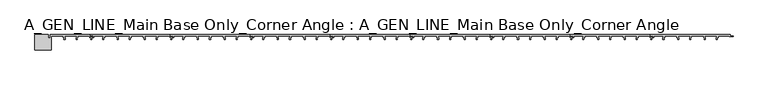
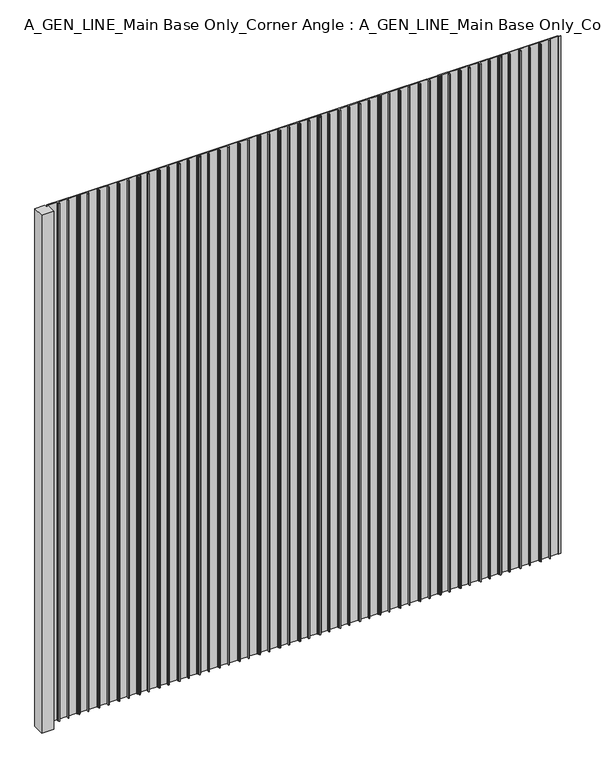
"""IFC4 building model written with IfcOpenShell, lengths in millimetres: proxy geometry, A_GEN_LINE_Main Base Only_Corner Angle : A_GEN_LINE_Main Base Only_Corner Angle."""

from ifc_helpers import new_model, si_unit, origin, origin_with_axes, place, context, project, spatial, polyline, outline, extrude, source, transform, mapped, element, save


def a_gen_line_main_base_only_corner_angle_a_gen_line_main_base_0dd37ec3(model_context):
    return source(origin(), model_context, "Body", "SweptSolid", [
        extrude(outline(polyline([(1237.0964399, 0.0), (1401.6725487, 0.0), (1401.6725487, -2.85), (1407.6725487, -2.85), (1407.6725487, -4.2), (1400.1541936, -4.2), (1400.1541936, -2.4), (1376.6846262, -2.4), (1376.6846262, -6.1021884), (1375.5696527, -6.1021884), (1373.9810869, -8.4994005), (1375.2430208, -8.4994005), (1375.2430208, -10.4818695), (1373.0404948, -10.4818695), (1373.073778, -5.5238337), (1375.1438558, -2.4), (1348.2274208, -2.4), (1350.326542, -5.6343123), (1350.326542, -10.4818695), (1348.1240159, -10.4818695), (1348.1240159, -8.4994005), (1349.3859498, -8.4994005), (1347.797384, -6.1021884), (1346.6824106, -6.1021884), (1346.6824106, -2.4), (1321.6819112, -2.4), (1321.6819112, -6.1021884), (1320.5669377, -6.1021884), (1318.9783719, -8.4994005), (1320.2403058, -8.4994005), (1320.2403058, -10.4818695), (1318.0377798, -10.4818695), (1318.0377798, -5.5740595), (1320.1411408, -2.4), (1293.2269214, -2.4), (1295.3260426, -5.6343123), (1295.3260426, -10.4818695), (1293.1235165, -10.4818695), (1293.1235165, -8.4994005), (1294.3854504, -8.4994005), (1292.7968846, -6.1021884), (1291.6819112, -6.1021884), (1291.6819112, -2.4), (1266.6814118, -2.4), (1266.6814118, -6.1021884), (1265.5664384, -6.1021884), (1263.9778726, -8.4994005), (1265.2398065, -8.4994005), (1265.2398065, -10.4818695), (1263.0372804, -10.4818695), (1263.0372804, -5.6343123), (1265.1364015, -2.4), (1244.3159926, -2.4), (1244.3159926, -6.1), (1240.3255432, -6.1), (1240.3255432, -10.4818695), (1238.1230171, -10.4818695), (1238.1230171, -8.4994005), (1239.384951, -8.4994005), (1237.7963852, -6.1021884), (1236.7101997, -6.1021884), (1236.7101997, -4.9), (1243.1159926, -4.9), (1243.1159926, -2.7), (1237.0964399, -2.7), (1237.0964399, 0.0)])), origin_with_axes(), (0.0, 0.0, 1.0), 1500.0),
        extrude(outline(polyline([(-4.3962835, 0.0), (-4.3962835, -7.0005407), (0.0, -7.0005407), (0.0, 0.0), (81.7101997, 0.0), (81.7101997, -2.825696), (87.7101997, -2.825696), (87.7101997, -4.175696), (80.1918447, -4.175696), (80.1918447, -2.4), (56.6880373, -2.4), (56.6880373, -6.1021884), (55.5730639, -6.1021884), (53.9844981, -8.4994005), (55.246432, -8.4994005), (55.246432, -10.4818695), (53.0439059, -10.4818695), (53.0771891, -5.5238337), (55.1472669, -2.4), (28.2330476, -2.4), (30.3031254, -5.5238337), (30.3364086, -10.4818695), (28.1338825, -10.4818695), (28.1338825, -8.4994005), (29.3958164, -8.4994005), (27.8072506, -6.1021884), (26.6922772, -6.1021884), (26.6922772, -2.4), (1.4, -2.4), (1.4, -31.9534606), (-31.8427435, -31.9534606), (-31.8427435, 0.0), (-4.3962835, 0.0)])), origin_with_axes(), (0.0, 0.0, 1.0), 1500.0),
        extrude(outline(polyline([(1072.0964399, 0.0), (1236.6725487, 0.0), (1236.6725487, -2.85), (1242.6725487, -2.85), (1242.6725487, -4.2), (1235.1541936, -4.2), (1235.1541936, -2.4), (1211.6846262, -2.4), (1211.6846262, -6.1021884), (1210.5696527, -6.1021884), (1208.9810869, -8.4994005), (1210.2430208, -8.4994005), (1210.2430208, -10.4818695), (1208.0404948, -10.4818695), (1208.073778, -5.5238337), (1210.1438558, -2.4), (1183.2274208, -2.4), (1185.326542, -5.6343123), (1185.326542, -10.4818695), (1183.1240159, -10.4818695), (1183.1240159, -8.4994005), (1184.3859498, -8.4994005), (1182.797384, -6.1021884), (1181.6824106, -6.1021884), (1181.6824106, -2.4), (1156.6819112, -2.4), (1156.6819112, -6.1021884), (1155.5669377, -6.1021884), (1153.9783719, -8.4994005), (1155.2403058, -8.4994005), (1155.2403058, -10.4818695), (1153.0377798, -10.4818695), (1153.0377798, -5.5740595), (1155.1411408, -2.4), (1128.2269214, -2.4), (1130.3260426, -5.6343123), (1130.3260426, -10.4818695), (1128.1235165, -10.4818695), (1128.1235165, -8.4994005), (1129.3854504, -8.4994005), (1127.7968846, -6.1021884), (1126.6819112, -6.1021884), (1126.6819112, -2.4), (1101.6814118, -2.4), (1101.6814118, -6.1021884), (1100.5664384, -6.1021884), (1098.9778726, -8.4994005), (1100.2398065, -8.4994005), (1100.2398065, -10.4818695), (1098.0372804, -10.4818695), (1098.0372804, -5.6343123), (1100.1364015, -2.4), (1079.3159926, -2.4), (1079.3159926, -6.1), (1075.3255432, -6.1), (1075.3255432, -10.4818695), (1073.1230171, -10.4818695), (1073.1230171, -8.4994005), (1074.384951, -8.4994005), (1072.7963852, -6.1021884), (1071.7101997, -6.1021884), (1071.7101997, -4.9), (1078.1159926, -4.9), (1078.1159926, -2.7), (1072.0964399, -2.7), (1072.0964399, 0.0)])), origin_with_axes(), (0.0, 0.0, 1.0), 1500.0),
        extrude(outline(polyline([(907.0964399, 0.0), (1071.6725487, 0.0), (1071.6725487, -2.85), (1077.6725487, -2.85), (1077.6725487, -4.2), (1070.1541936, -4.2), (1070.1541936, -2.4), (1046.6846262, -2.4), (1046.6846262, -6.1021884), (1045.5696527, -6.1021884), (1043.9810869, -8.4994005), (1045.2430208, -8.4994005), (1045.2430208, -10.4818695), (1043.0404948, -10.4818695), (1043.073778, -5.5238337), (1045.1438558, -2.4), (1018.2274208, -2.4), (1020.326542, -5.6343123), (1020.326542, -10.4818695), (1018.1240159, -10.4818695), (1018.1240159, -8.4994005), (1019.3859498, -8.4994005), (1017.797384, -6.1021884), (1016.6824106, -6.1021884), (1016.6824106, -2.4), (991.6819112, -2.4), (991.6819112, -6.1021884), (990.5669377, -6.1021884), (988.9783719, -8.4994005), (990.2403058, -8.4994005), (990.2403058, -10.4818695), (988.0377798, -10.4818695), (988.0377798, -5.5740595), (990.1411408, -2.4), (963.2269214, -2.4), (965.3260426, -5.6343123), (965.3260426, -10.4818695), (963.1235165, -10.4818695), (963.1235165, -8.4994005), (964.3854504, -8.4994005), (962.7968846, -6.1021884), (961.6819112, -6.1021884), (961.6819112, -2.4), (936.6814118, -2.4), (936.6814118, -6.1021884), (935.5664384, -6.1021884), (933.9778726, -8.4994005), (935.2398065, -8.4994005), (935.2398065, -10.4818695), (933.0372804, -10.4818695), (933.0372804, -5.6343123), (935.1364015, -2.4), (914.3159926, -2.4), (914.3159926, -6.1), (910.3255432, -6.1), (910.3255432, -10.4818695), (908.1230171, -10.4818695), (908.1230171, -8.4994005), (909.384951, -8.4994005), (907.7963852, -6.1021884), (906.7101997, -6.1021884), (906.7101997, -4.9), (913.1159926, -4.9), (913.1159926, -2.7), (907.0964399, -2.7), (907.0964399, 0.0)])), origin_with_axes(), (0.0, 0.0, 1.0), 1500.0),
        extrude(outline(polyline([(742.0964399, 0.0), (906.6725487, 0.0), (906.6725487, -2.85), (912.6725487, -2.85), (912.6725487, -4.2), (905.1541936, -4.2), (905.1541936, -2.4), (881.6846262, -2.4), (881.6846262, -6.1021884), (880.5696527, -6.1021884), (878.9810869, -8.4994005), (880.2430208, -8.4994005), (880.2430208, -10.4818695), (878.0404948, -10.4818695), (878.073778, -5.5238337), (880.1438558, -2.4), (853.2274208, -2.4), (855.326542, -5.6343123), (855.326542, -10.4818695), (853.1240159, -10.4818695), (853.1240159, -8.4994005), (854.3859498, -8.4994005), (852.797384, -6.1021884), (851.6824106, -6.1021884), (851.6824106, -2.4), (826.6819112, -2.4), (826.6819112, -6.1021884), (825.5669377, -6.1021884), (823.9783719, -8.4994005), (825.2403058, -8.4994005), (825.2403058, -10.4818695), (823.0377798, -10.4818695), (823.0377798, -5.5740595), (825.1411408, -2.4), (798.2269214, -2.4), (800.3260426, -5.6343123), (800.3260426, -10.4818695), (798.1235165, -10.4818695), (798.1235165, -8.4994005), (799.3854504, -8.4994005), (797.7968846, -6.1021884), (796.6819112, -6.1021884), (796.6819112, -2.4), (771.6814118, -2.4), (771.6814118, -6.1021884), (770.5664384, -6.1021884), (768.9778726, -8.4994005), (770.2398065, -8.4994005), (770.2398065, -10.4818695), (768.0372804, -10.4818695), (768.0372804, -5.6343123), (770.1364015, -2.4), (749.3159926, -2.4), (749.3159926, -6.1), (745.3255432, -6.1), (745.3255432, -10.4818695), (743.1230171, -10.4818695), (743.1230171, -8.4994005), (744.384951, -8.4994005), (742.7963852, -6.1021884), (741.7101997, -6.1021884), (741.7101997, -4.9), (748.1159926, -4.9), (748.1159926, -2.7), (742.0964399, -2.7), (742.0964399, 0.0)])), origin_with_axes(), (0.0, 0.0, 1.0), 1500.0),
        extrude(outline(polyline([(577.0964399, 0.0), (741.6725487, 0.0), (741.6725487, -2.85), (747.6725487, -2.85), (747.6725487, -4.2), (740.1541936, -4.2), (740.1541936, -2.4), (716.6846262, -2.4), (716.6846262, -6.1021884), (715.5696527, -6.1021884), (713.9810869, -8.4994005), (715.2430208, -8.4994005), (715.2430208, -10.4818695), (713.0404948, -10.4818695), (713.073778, -5.5238337), (715.1438558, -2.4), (688.2274208, -2.4), (690.326542, -5.6343123), (690.326542, -10.4818695), (688.1240159, -10.4818695), (688.1240159, -8.4994005), (689.3859498, -8.4994005), (687.797384, -6.1021884), (686.6824106, -6.1021884), (686.6824106, -2.4), (661.6819112, -2.4), (661.6819112, -6.1021884), (660.5669377, -6.1021884), (658.9783719, -8.4994005), (660.2403058, -8.4994005), (660.2403058, -10.4818695), (658.0377798, -10.4818695), (658.0377798, -5.5740595), (660.1411408, -2.4), (633.2269214, -2.4), (635.3260426, -5.6343123), (635.3260426, -10.4818695), (633.1235165, -10.4818695), (633.1235165, -8.4994005), (634.3854504, -8.4994005), (632.7968846, -6.1021884), (631.6819112, -6.1021884), (631.6819112, -2.4), (606.6814118, -2.4), (606.6814118, -6.1021884), (605.5664384, -6.1021884), (603.9778726, -8.4994005), (605.2398065, -8.4994005), (605.2398065, -10.4818695), (603.0372804, -10.4818695), (603.0372804, -5.6343123), (605.1364015, -2.4), (584.3159926, -2.4), (584.3159926, -6.1), (580.3255432, -6.1), (580.3255432, -10.4818695), (578.1230171, -10.4818695), (578.1230171, -8.4994005), (579.384951, -8.4994005), (577.7963852, -6.1021884), (576.7101997, -6.1021884), (576.7101997, -4.9), (583.1159926, -4.9), (583.1159926, -2.7), (577.0964399, -2.7), (577.0964399, 0.0)])), origin_with_axes(), (0.0, 0.0, 1.0), 1500.0),
        extrude(outline(polyline([(412.0964399, 0.0), (576.6725487, 0.0), (576.6725487, -2.85), (582.6725487, -2.85), (582.6725487, -4.2), (575.1541936, -4.2), (575.1541936, -2.4), (551.6846262, -2.4), (551.6846262, -6.1021884), (550.5696527, -6.1021884), (548.9810869, -8.4994005), (550.2430208, -8.4994005), (550.2430208, -10.4818695), (548.0404948, -10.4818695), (548.073778, -5.5238337), (550.1438558, -2.4), (523.2274208, -2.4), (525.326542, -5.6343123), (525.326542, -10.4818695), (523.1240159, -10.4818695), (523.1240159, -8.4994005), (524.3859498, -8.4994005), (522.797384, -6.1021884), (521.6824106, -6.1021884), (521.6824106, -2.4), (496.6819112, -2.4), (496.6819112, -6.1021884), (495.5669377, -6.1021884), (493.9783719, -8.4994005), (495.2403058, -8.4994005), (495.2403058, -10.4818695), (493.0377798, -10.4818695), (493.0377798, -5.5740595), (495.1411408, -2.4), (468.2269214, -2.4), (470.3260426, -5.6343123), (470.3260426, -10.4818695), (468.1235165, -10.4818695), (468.1235165, -8.4994005), (469.3854504, -8.4994005), (467.7968846, -6.1021884), (466.6819112, -6.1021884), (466.6819112, -2.4), (441.6814118, -2.4), (441.6814118, -6.1021884), (440.5664384, -6.1021884), (438.9778726, -8.4994005), (440.2398065, -8.4994005), (440.2398065, -10.4818695), (438.0372804, -10.4818695), (438.0372804, -5.6343123), (440.1364015, -2.4), (419.3159926, -2.4), (419.3159926, -6.1), (415.3255432, -6.1), (415.3255432, -10.4818695), (413.1230171, -10.4818695), (413.1230171, -8.4994005), (414.384951, -8.4994005), (412.7963852, -6.1021884), (411.7101997, -6.1021884), (411.7101997, -4.9), (418.1159926, -4.9), (418.1159926, -2.7), (412.0964399, -2.7), (412.0964399, 0.0)])), origin_with_axes(), (0.0, 0.0, 1.0), 1500.0),
        extrude(outline(polyline([(247.0964399, 0.0), (411.6725487, 0.0), (411.6725487, -2.85), (417.6725487, -2.85), (417.6725487, -4.2), (410.1541936, -4.2), (410.1541936, -2.4), (386.6846262, -2.4), (386.6846262, -6.1021884), (385.5696527, -6.1021884), (383.9810869, -8.4994005), (385.2430208, -8.4994005), (385.2430208, -10.4818695), (383.0404948, -10.4818695), (383.073778, -5.5238337), (385.1438558, -2.4), (358.2274208, -2.4), (360.326542, -5.6343123), (360.326542, -10.4818695), (358.1240159, -10.4818695), (358.1240159, -8.4994005), (359.3859498, -8.4994005), (357.797384, -6.1021884), (356.6824106, -6.1021884), (356.6824106, -2.4), (331.6819112, -2.4), (331.6819112, -6.1021884), (330.5669377, -6.1021884), (328.9783719, -8.4994005), (330.2403058, -8.4994005), (330.2403058, -10.4818695), (328.0377798, -10.4818695), (328.0377798, -5.5740595), (330.1411408, -2.4), (303.2269214, -2.4), (305.3260426, -5.6343123), (305.3260426, -10.4818695), (303.1235165, -10.4818695), (303.1235165, -8.4994005), (304.3854504, -8.4994005), (302.7968846, -6.1021884), (301.6819112, -6.1021884), (301.6819112, -2.4), (276.6814118, -2.4), (276.6814118, -6.1021884), (275.5664384, -6.1021884), (273.9778726, -8.4994005), (275.2398065, -8.4994005), (275.2398065, -10.4818695), (273.0372804, -10.4818695), (273.0372804, -5.6343123), (275.1364015, -2.4), (254.3159926, -2.4), (254.3159926, -6.1), (250.3255432, -6.1), (250.3255432, -10.4818695), (248.1230171, -10.4818695), (248.1230171, -8.4994005), (249.384951, -8.4994005), (247.7963852, -6.1021884), (246.7101997, -6.1021884), (246.7101997, -4.9), (253.1159926, -4.9), (253.1159926, -2.7), (247.0964399, -2.7), (247.0964399, 0.0)])), origin_with_axes(), (0.0, 0.0, 1.0), 1500.0),
        extrude(outline(polyline([(82.0964399, 0.0), (246.6725487, 0.0), (246.6725487, -2.85), (252.6725487, -2.85), (252.6725487, -4.2), (245.1541936, -4.2), (245.1541936, -2.4), (221.6846262, -2.4), (221.6846262, -6.1021884), (220.5696527, -6.1021884), (218.9810869, -8.4994005), (220.2430208, -8.4994005), (220.2430208, -10.4818695), (218.0404948, -10.4818695), (218.073778, -5.5238337), (220.1438558, -2.4), (193.2274208, -2.4), (195.326542, -5.6343123), (195.326542, -10.4818695), (193.1240159, -10.4818695), (193.1240159, -8.4994005), (194.3859498, -8.4994005), (192.797384, -6.1021884), (191.6824106, -6.1021884), (191.6824106, -2.4), (166.6819112, -2.4), (166.6819112, -6.1021884), (165.5669377, -6.1021884), (163.9783719, -8.4994005), (165.2403058, -8.4994005), (165.2403058, -10.4818695), (163.0377798, -10.4818695), (163.0377798, -5.5740595), (165.1411408, -2.4), (138.2269214, -2.4), (140.3260426, -5.6343123), (140.3260426, -10.4818695), (138.1235165, -10.4818695), (138.1235165, -8.4994005), (139.3854504, -8.4994005), (137.7968846, -6.1021884), (136.6819112, -6.1021884), (136.6819112, -2.4), (111.6814118, -2.4), (111.6814118, -6.1021884), (110.5664384, -6.1021884), (108.9778726, -8.4994005), (110.2398065, -8.4994005), (110.2398065, -10.4818695), (108.0372804, -10.4818695), (108.0372804, -5.6343123), (110.1364015, -2.4), (89.3159926, -2.4), (89.3159926, -6.1), (85.3255432, -6.1), (85.3255432, -10.4818695), (83.1230171, -10.4818695), (83.1230171, -8.4994005), (84.384951, -8.4994005), (82.7963852, -6.1021884), (81.7101997, -6.1021884), (81.7101997, -4.9), (88.1159926, -4.9), (88.1159926, -2.7), (82.0964399, -2.7), (82.0964399, 0.0)])), origin_with_axes(), (0.0, 0.0, 1.0), 1500.0),
    ])


if __name__ == "__main__":
    model = new_model("IFC4")
    model_context = context("Model", 3, world=origin())
    ifc_project = project(units=[si_unit("LENGTHUNIT", "METRE", prefix="MILLI")], contexts=[model_context])
    site = spatial("IfcSite", under=ifc_project)
    building = spatial("IfcBuilding", under=site)
    placement = place(None, origin())
    a_gen_line_main_base_only_corner_angle_a_gen_line_main_base_shape = a_gen_line_main_base_only_corner_angle_a_gen_line_main_base_0dd37ec3(model_context)
    element("IfcBuildingElementProxy", 1, Name="A_GEN_LINE_Main Base Only_Corner Angle : A_GEN_LINE_Main Base Only_Corner Angle", ObjectType="A_GEN_LINE_Main Base Only_Corner Angle : A_GEN_LINE_Main Base Only_Corner Angle", at=placement, inside=building, context=model_context, shape_type="MappedRepresentation", body=[
        mapped(a_gen_line_main_base_only_corner_angle_a_gen_line_main_base_shape, transform((0.0, 0.0, 0.0), x_axis=(1.0, 0.0, 0.0), y_axis=(0.0, 1.0, 0.0), z_axis=(0.0, 0.0, 1.0))),
    ])
    save(model, "model.ifc")
